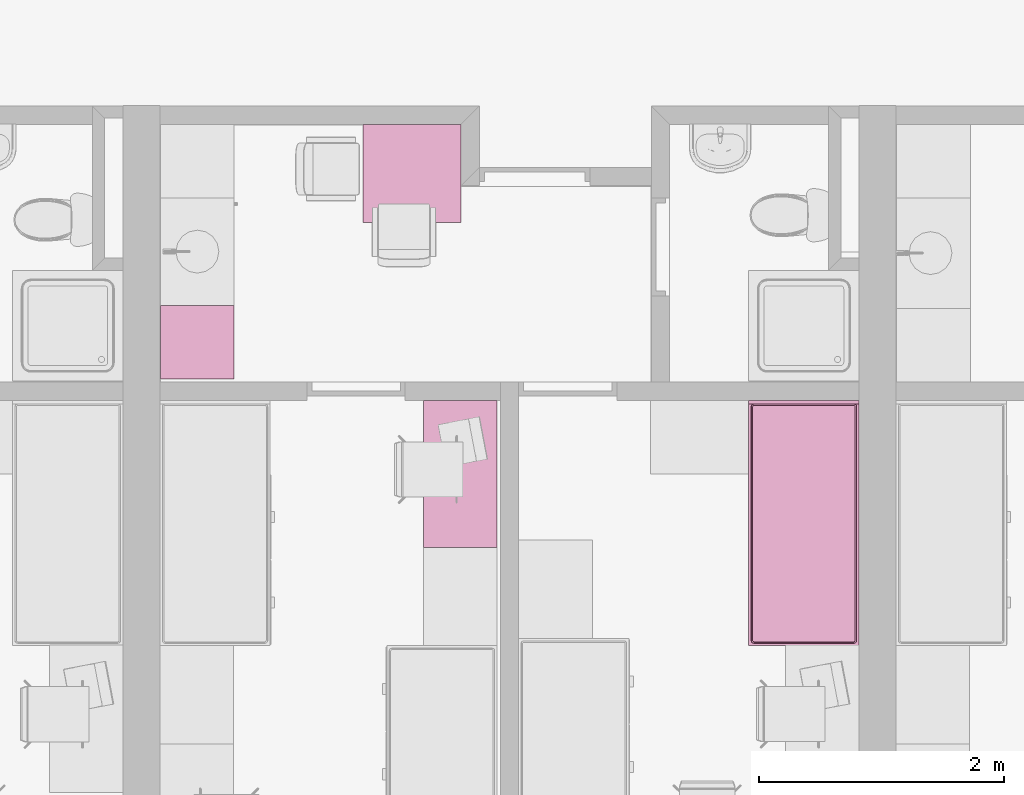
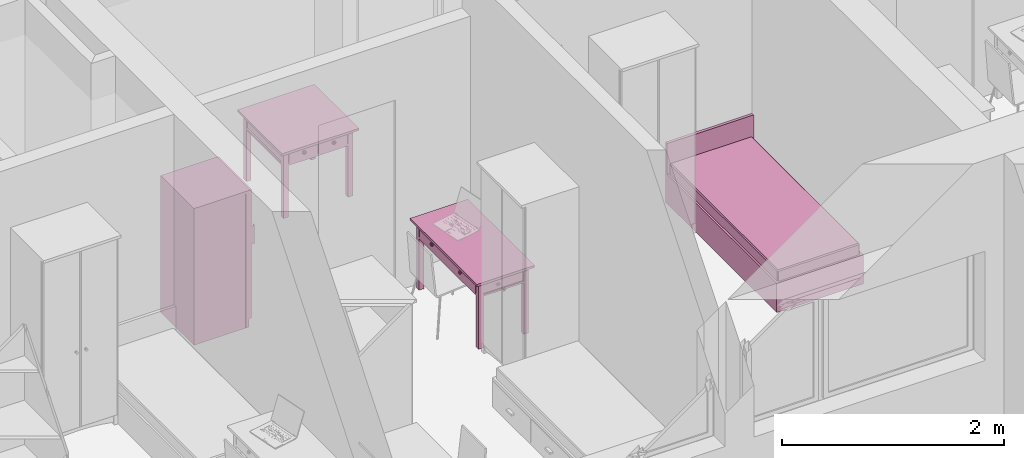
# One storey, part 107 of 172: 4 furnishings.
"""IFC2X3 building model written with IfcOpenShell, lengths in millimetres."""

from ifc_helpers import new_model, entity, si_unit, converted_unit, money_unit, direction, frame, origin_with_axes, place, context, subcontext, project, spatial, open_shell, faceted_brep, surface_model, source, transform, mapped, material, material_list, type_object, element, save


model = new_model("IFC2X3")

# Units and contexts
model_context = context("Model", 3, precision=1e-05, world=origin_with_axes(), true_north=direction((0.0, 1.0)))
body_context = subcontext(model_context, "Body", "Model", "MODEL_VIEW")
ifc_project = project(units=[si_unit("LENGTHUNIT", "METRE", prefix="MILLI"), si_unit("AREAUNIT", "SQUARE_METRE"), si_unit("VOLUMEUNIT", "CUBIC_METRE"), converted_unit("PLANEANGLEUNIT", "DEGREE", entity("IfcPlaneAngleMeasure", 0.0174532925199), si_unit("PLANEANGLEUNIT", "RADIAN"), dimensions=[0, 0, 0, 0, 0, 0, 0]), si_unit("SOLIDANGLEUNIT", "STERADIAN"), money_unit("USD"), converted_unit("TIMEUNIT", "Year", entity("IfcTimeMeasure", 31556926.0), si_unit("TIMEUNIT", "SECOND"), dimensions=[0, 0, 0, 0, 0, 0, 0]), si_unit("MASSUNIT", "GRAM"), si_unit("THERMODYNAMICTEMPERATUREUNIT", "DEGREE_CELSIUS"), si_unit("LUMINOUSINTENSITYUNIT", "LUMEN")], contexts=[model_context])

# Site, building, storey
site_placement = place(None, origin_with_axes())
site = spatial("IfcSite", under=ifc_project, at=site_placement, Name="Site", CompositionType="ELEMENT")
building_placement = place(site_placement, origin_with_axes())
building = spatial("IfcBuilding", under=site, at=building_placement, Name="Building", CompositionType="ELEMENT")
storey_placement = place(building_placement, frame((0.0, 0.0, 3200.0), z_axis=(0.0, 0.0, 1.0), x_axis=(1.0, 0.0, 0.0)))
storey = spatial("IfcBuildingStorey", under=building, at=storey_placement, Name="3KORRUS", CompositionType="ELEMENT", Elevation=3200.0)

# Furnishings
ifc_material = material(Name="Background")
ifc_material_list = material_list([ifc_material])
furnishing_element_type_1 = type_object("IfcFurnishingElementType", Name="Bed 19")
shared_shape_1 = source(origin_with_axes(), body_context, "Body", "Brep", [
    faceted_brep([(900.0, 1970.0, 0.0), (0.0, 1970.0, 0.0), (0.0, 2000.0, 0.0), (900.0, 2000.0, 0.0), (900.0, 1970.0, 660.0), (0.0, 1970.0, 660.0), (0.0, 2000.0, 660.0), (900.0, 2000.0, 660.0)], [[[0, 1, 2, 3]], [[1, 0, 4, 5]], [[2, 1, 5, 6]], [[3, 2, 6, 7]], [[0, 3, 7, 4]], [[5, 4, 7, 6]]]),
    faceted_brep([(900.0, 0.0, 0.0), (0.0, 0.0, 0.0), (0.0, 1970.0, 0.0), (900.0, 1970.0, 0.0), (900.0, 0.0, 320.0), (0.0, 0.0, 320.0), (0.0, 1970.0, 320.0), (900.0, 1970.0, 320.0)], [[[0, 1, 2, 3]], [[1, 0, 4, 5]], [[2, 1, 5, 6]], [[3, 2, 6, 7]], [[0, 3, 7, 4]], [[5, 4, 7, 6]]]),
    faceted_brep([(905.0, 10.0, 30.0), (900.0, 10.0, 30.0), (900.0, 695.0, 30.0), (905.0, 695.0, 30.0), (905.0, 10.0, 290.0), (900.0, 10.0, 290.0), (900.0, 695.0, 290.0), (905.0, 695.0, 290.0)], [[[0, 1, 2, 3]], [[1, 0, 4, 5]], [[2, 1, 5, 6]], [[3, 2, 6, 7]], [[0, 3, 7, 4]], [[5, 4, 7, 6]]]),
    faceted_brep([(935.0, 307.5, 150.0), (905.0, 307.5, 150.0), (905.0, 397.5, 150.0), (935.0, 397.5, 150.0), (935.0, 307.5, 170.0), (905.0, 307.5, 170.0), (905.0, 397.5, 170.0), (935.0, 397.5, 170.0)], [[[0, 1, 2, 3]], [[1, 0, 4, 5]], [[2, 1, 5, 6]], [[3, 2, 6, 7]], [[0, 3, 7, 4]], [[5, 4, 7, 6]]]),
    faceted_brep([(905.0, 705.0, 30.0), (900.0, 705.0, 30.0), (900.0, 1390.0, 30.0), (905.0, 1390.0, 30.0), (905.0, 705.0, 290.0), (900.0, 705.0, 290.0), (900.0, 1390.0, 290.0), (905.0, 1390.0, 290.0)], [[[0, 1, 2, 3]], [[1, 0, 4, 5]], [[2, 1, 5, 6]], [[3, 2, 6, 7]], [[0, 3, 7, 4]], [[5, 4, 7, 6]]]),
    faceted_brep([(935.0, 1002.5, 150.0), (905.0, 1002.5, 150.0), (905.0, 1092.5, 150.0), (935.0, 1092.5, 150.0), (935.0, 1002.5, 170.0), (905.0, 1002.5, 170.0), (905.0, 1092.5, 170.0), (935.0, 1092.5, 170.0)], [[[0, 1, 2, 3]], [[1, 0, 4, 5]], [[2, 1, 5, 6]], [[3, 2, 6, 7]], [[0, 3, 7, 4]], [[5, 4, 7, 6]]]),
    faceted_brep([(20.0, 40.0, 350.0), (20.0, 1950.0, 350.0), (21.522, 1957.654, 350.0), (25.858, 1964.142, 350.0), (32.346, 1968.478, 350.0), (40.0, 1970.0, 350.0), (860.0, 1970.0, 350.0), (867.654, 1968.478, 350.0), (874.142, 1964.142, 350.0), (878.478, 1957.654, 350.0), (880.0, 1950.0, 350.0), (880.0, 40.0, 350.0), (878.478, 32.346, 350.0), (874.142, 25.858, 350.0), (867.654, 21.522, 350.0), (860.0, 20.0, 350.0), (40.0, 20.0, 350.0), (32.346, 21.522, 350.0), (25.858, 25.858, 350.0), (21.522, 32.346, 350.0), (20.0, 40.0, 420.0), (20.0, 1950.0, 420.0), (21.522, 1957.654, 420.0), (25.858, 1964.142, 420.0), (32.346, 1968.478, 420.0), (40.0, 1970.0, 420.0), (860.0, 1970.0, 420.0), (867.654, 1968.478, 420.0), (874.142, 1964.142, 420.0), (878.478, 1957.654, 420.0), (880.0, 1950.0, 420.0), (880.0, 40.0, 420.0), (878.478, 32.346, 420.0), (874.142, 25.858, 420.0), (867.654, 21.522, 420.0), (860.0, 20.0, 420.0), (40.0, 20.0, 420.0), (32.346, 21.522, 420.0), (25.858, 25.858, 420.0), (21.522, 32.346, 420.0), (21.522, 40.15, 427.654), (21.522, 1949.85, 427.654), (22.956, 1957.06, 427.654), (26.955, 1963.045, 427.654), (32.94, 1967.044, 427.654), (40.15, 1968.478, 427.654), (859.85, 1968.478, 427.654), (867.06, 1967.044, 427.654), (873.045, 1963.045, 427.654), (877.044, 1957.06, 427.654), (878.478, 1949.85, 427.654), (878.478, 40.15, 427.654), (877.044, 32.94, 427.654), (873.045, 26.955, 427.654), (867.06, 22.956, 427.654), (859.85, 21.522, 427.654), (40.15, 21.522, 427.654), (32.94, 22.956, 427.654), (26.955, 26.955, 427.654), (22.956, 32.94, 427.654), (32.346, 41.216, 438.478), (32.346, 1948.784, 438.478), (33.152, 1952.836, 438.478), (34.759, 1955.241, 438.478), (37.164, 1956.848, 438.478), (41.216, 1957.654, 438.478), (858.784, 1957.654, 438.478), (862.836, 1956.848, 438.478), (865.241, 1955.241, 438.478), (866.848, 1952.836, 438.478), (867.654, 1948.784, 438.478), (867.654, 41.216, 438.478), (866.848, 37.164, 438.478), (865.241, 34.759, 438.478), (862.836, 33.152, 438.478), (858.784, 32.346, 438.478), (41.216, 32.346, 438.478), (37.164, 33.152, 438.478), (34.759, 34.759, 438.478), (33.152, 37.164, 438.478), (40.0, 41.97, 440.0), (40.0, 1948.03, 440.0), (40.327, 1949.673, 440.0), (40.0, 1950.0, 439.924), (41.97, 1950.0, 440.0), (858.03, 1950.0, 440.0), (859.673, 1949.673, 440.0), (860.0, 1950.0, 439.924), (860.0, 1948.03, 440.0), (860.0, 41.97, 440.0), (859.673, 40.327, 440.0), (860.0, 40.0, 439.924), (858.03, 40.0, 440.0), (41.97, 40.0, 440.0), (40.327, 40.327, 440.0), (40.0, 40.0, 439.924)], [[[0, 1, 2, 3, 4, 5, 6, 7, 8, 9, 10, 11, 12, 13, 14, 15, 16, 17, 18, 19]], [[1, 0, 20, 21]], [[2, 1, 21, 22]], [[3, 2, 22, 23]], [[4, 3, 23, 24]], [[5, 4, 24, 25]], [[6, 5, 25, 26]], [[7, 6, 26, 27]], [[8, 7, 27, 28]], [[9, 8, 28, 29]], [[10, 9, 29, 30]], [[11, 10, 30, 31]], [[12, 11, 31, 32]], [[13, 12, 32, 33]], [[14, 13, 33, 34]], [[15, 14, 34, 35]], [[16, 15, 35, 36]], [[17, 16, 36, 37]], [[18, 17, 37, 38]], [[19, 18, 38, 39]], [[0, 19, 39, 20]], [[21, 20, 40, 41]], [[22, 21, 41, 42]], [[23, 22, 42, 43]], [[24, 23, 43, 44]], [[25, 24, 44, 45]], [[26, 25, 45, 46]], [[27, 26, 46, 47]], [[28, 27, 47, 48]], [[29, 28, 48, 49]], [[30, 29, 49, 50]], [[31, 30, 50, 51]], [[32, 31, 51, 52]], [[33, 32, 52, 53]], [[34, 33, 53, 54]], [[35, 34, 54, 55]], [[36, 35, 55, 56]], [[37, 36, 56, 57]], [[38, 37, 57, 58]], [[39, 38, 58, 59]], [[20, 39, 59, 40]], [[41, 40, 60, 61]], [[42, 41, 61, 62]], [[43, 42, 62, 63]], [[44, 43, 63, 64]], [[45, 44, 64, 65]], [[46, 45, 65, 66]], [[47, 46, 66, 67]], [[48, 47, 67, 68]], [[49, 48, 68, 69]], [[50, 49, 69, 70]], [[51, 50, 70, 71]], [[52, 51, 71, 72]], [[53, 52, 72, 73]], [[54, 53, 73, 74]], [[55, 54, 74, 75]], [[56, 55, 75, 76]], [[57, 56, 76, 77]], [[58, 57, 77, 78]], [[59, 58, 78, 79]], [[40, 59, 79, 60]], [[61, 60, 80, 81]], [[62, 61, 81, 82, 83]], [[63, 62, 83]], [[64, 63, 83]], [[65, 64, 83, 82, 84]], [[66, 65, 84, 85]], [[67, 66, 85, 86, 87]], [[68, 67, 87]], [[69, 68, 87]], [[70, 69, 87, 86, 88]], [[71, 70, 88, 89]], [[72, 71, 89, 90, 91]], [[73, 72, 91]], [[74, 73, 91]], [[75, 74, 91, 90, 92]], [[76, 75, 92, 93]], [[77, 76, 93, 94, 95]], [[78, 77, 95]], [[79, 78, 95]], [[60, 79, 95, 94, 80]], [[81, 80, 94, 93, 92, 90, 89, 88, 86, 85, 84, 82]]]),
    faceted_brep([(20.0, 40.0, 350.0), (21.522, 32.346, 350.0), (25.858, 25.858, 350.0), (32.346, 21.522, 350.0), (40.0, 20.0, 350.0), (860.0, 20.0, 350.0), (867.654, 21.522, 350.0), (874.142, 25.858, 350.0), (878.478, 32.346, 350.0), (880.0, 40.0, 350.0), (880.0, 1950.0, 350.0), (878.478, 1957.654, 350.0), (874.142, 1964.142, 350.0), (867.654, 1968.478, 350.0), (860.0, 1970.0, 350.0), (40.0, 1970.0, 350.0), (32.346, 1968.478, 350.0), (25.858, 1964.142, 350.0), (21.522, 1957.654, 350.0), (20.0, 1950.0, 350.0), (20.0, 40.0, 320.0), (21.522, 32.346, 320.0), (25.858, 25.858, 320.0), (32.346, 21.522, 320.0), (40.0, 20.0, 320.0), (860.0, 20.0, 320.0), (867.654, 21.522, 320.0), (874.142, 25.858, 320.0), (878.478, 32.346, 320.0), (880.0, 40.0, 320.0), (880.0, 1950.0, 320.0), (878.478, 1957.654, 320.0), (874.142, 1964.142, 320.0), (867.654, 1968.478, 320.0), (860.0, 1970.0, 320.0), (40.0, 1970.0, 320.0), (32.346, 1968.478, 320.0), (25.858, 1964.142, 320.0), (21.522, 1957.654, 320.0), (20.0, 1950.0, 320.0)], [[[0, 1, 2, 3, 4, 5, 6, 7, 8, 9, 10, 11, 12, 13, 14, 15, 16, 17, 18, 19]], [[0, 20, 21, 1]], [[1, 21, 22, 2]], [[2, 22, 23, 3]], [[3, 23, 24, 4]], [[4, 24, 25, 5]], [[5, 25, 26, 6]], [[6, 26, 27, 7]], [[7, 27, 28, 8]], [[8, 28, 29, 9]], [[9, 29, 30, 10]], [[10, 30, 31, 11]], [[11, 31, 32, 12]], [[12, 32, 33, 13]], [[13, 33, 34, 14]], [[14, 34, 35, 15]], [[15, 35, 36, 16]], [[16, 36, 37, 17]], [[17, 37, 38, 18]], [[18, 38, 39, 19]], [[19, 39, 20, 0]], [[20, 39, 38, 37, 36, 35, 34, 33, 32, 31, 30, 29, 28, 27, 26, 25, 24, 23, 22, 21]]]),
])
furnishing_1_placement = place(storey_placement, frame((-25190.2967033, -17439.2398994, 0.0), z_axis=(0.0, 0.0, 1.0), x_axis=(1.0, 0.0, 0.0)))
element("IfcFurnishingElement", 1, at=furnishing_1_placement, inside=storey, type_object=furnishing_element_type_1, material=ifc_material_list, Name="FU - 013", context=body_context, shape_type="MappedRepresentation", body=[
    mapped(shared_shape_1, transform((0.0, 0.0, 0.0))),
])
furnishing_element_type_2 = type_object("IfcFurnishingElementType", Name="Rectangular Table 01 19")
shared_shape_2 = source(origin_with_axes(), body_context, "Body", "Brep", [
    faceted_brep([(90.0, 40.0, 0.0), (40.0, 40.0, 0.0), (40.0, 90.0, 0.0), (90.0, 90.0, 0.0), (90.0, 40.0, 725.0), (40.0, 40.0, 725.0), (40.0, 90.0, 725.0), (90.0, 90.0, 725.0)], [[[0, 1, 2, 3]], [[1, 0, 4, 5]], [[2, 1, 5, 6]], [[3, 2, 6, 7]], [[0, 3, 7, 4]], [[5, 4, 7, 6]]]),
    faceted_brep([(1160.0, 40.0, 0.0), (1110.0, 40.0, 0.0), (1110.0, 90.0, 0.0), (1160.0, 90.0, 0.0), (1160.0, 40.0, 725.0), (1110.0, 40.0, 725.0), (1110.0, 90.0, 725.0), (1160.0, 90.0, 725.0)], [[[0, 1, 2, 3]], [[1, 0, 4, 5]], [[2, 1, 5, 6]], [[3, 2, 6, 7]], [[0, 3, 7, 4]], [[5, 4, 7, 6]]]),
    faceted_brep([(90.0, 510.0, 0.0), (40.0, 510.0, 0.0), (40.0, 560.0, 0.0), (90.0, 560.0, 0.0), (90.0, 510.0, 725.0), (40.0, 510.0, 725.0), (40.0, 560.0, 725.0), (90.0, 560.0, 725.0)], [[[0, 1, 2, 3]], [[1, 0, 4, 5]], [[2, 1, 5, 6]], [[3, 2, 6, 7]], [[0, 3, 7, 4]], [[5, 4, 7, 6]]]),
    faceted_brep([(1160.0, 510.0, 0.0), (1110.0, 510.0, 0.0), (1110.0, 560.0, 0.0), (1160.0, 560.0, 0.0), (1160.0, 510.0, 725.0), (1110.0, 510.0, 725.0), (1110.0, 560.0, 725.0), (1160.0, 560.0, 725.0)], [[[0, 1, 2, 3]], [[1, 0, 4, 5]], [[2, 1, 5, 6]], [[3, 2, 6, 7]], [[0, 3, 7, 4]], [[5, 4, 7, 6]]]),
    faceted_brep([(1160.0, 40.0, 565.0), (40.0, 40.0, 565.0), (40.0, 560.0, 565.0), (1160.0, 560.0, 565.0), (1160.0, 40.0, 585.0), (40.0, 40.0, 585.0), (40.0, 560.0, 585.0), (1160.0, 560.0, 585.0)], [[[0, 1, 2, 3]], [[1, 0, 4, 5]], [[2, 1, 5, 6]], [[3, 2, 6, 7]], [[0, 3, 7, 4]], [[5, 4, 7, 6]]]),
    faceted_brep([(1110.0, 52.5, 585.0), (90.0, 52.5, 585.0), (90.0, 77.5, 585.0), (1110.0, 77.5, 585.0), (1110.0, 52.5, 745.0), (90.0, 52.5, 745.0), (90.0, 77.5, 745.0), (1110.0, 77.5, 745.0)], [[[0, 1, 2, 3]], [[1, 0, 4, 5]], [[2, 1, 5, 6]], [[3, 2, 6, 7]], [[0, 3, 7, 4]], [[5, 4, 7, 6]]]),
    faceted_brep([(77.5, 90.0, 585.0), (52.5, 90.0, 585.0), (52.5, 510.0, 585.0), (77.5, 510.0, 585.0), (77.5, 90.0, 745.0), (52.5, 90.0, 745.0), (52.5, 510.0, 745.0), (77.5, 510.0, 745.0)], [[[0, 1, 2, 3]], [[1, 0, 4, 5]], [[2, 1, 5, 6]], [[3, 2, 6, 7]], [[0, 3, 7, 4]], [[5, 4, 7, 6]]]),
    faceted_brep([(90.0, 547.5, 585.0), (1110.0, 547.5, 585.0), (1110.0, 522.5, 585.0), (90.0, 522.5, 585.0), (90.0, 547.5, 745.0), (1110.0, 547.5, 745.0), (1110.0, 522.5, 745.0), (90.0, 522.5, 745.0)], [[[0, 1, 2, 3]], [[1, 0, 4, 5]], [[2, 1, 5, 6]], [[3, 2, 6, 7]], [[0, 3, 7, 4]], [[5, 4, 7, 6]]]),
    faceted_brep([(1122.5, 510.0, 585.0), (1147.5, 510.0, 585.0), (1147.5, 90.0, 585.0), (1122.5, 90.0, 585.0), (1122.5, 510.0, 745.0), (1147.5, 510.0, 745.0), (1147.5, 90.0, 745.0), (1122.5, 90.0, 745.0)], [[[0, 1, 2, 3]], [[1, 0, 4, 5]], [[2, 1, 5, 6]], [[3, 2, 6, 7]], [[0, 3, 7, 4]], [[5, 4, 7, 6]]]),
    faceted_brep([(597.5, 40.0, 585.0), (95.0, 40.0, 585.0), (95.0, 60.0, 585.0), (597.5, 60.0, 585.0), (597.5, 40.0, 745.0), (95.0, 40.0, 745.0), (95.0, 60.0, 745.0), (597.5, 60.0, 745.0)], [[[0, 1, 2, 3]], [[1, 0, 4, 5]], [[2, 1, 5, 6]], [[3, 2, 6, 7]], [[0, 3, 7, 4]], [[5, 4, 7, 6]]]),
    faceted_brep([(1105.0, 40.0, 585.0), (602.5, 40.0, 585.0), (602.5, 60.0, 585.0), (1105.0, 60.0, 585.0), (1105.0, 40.0, 745.0), (602.5, 40.0, 745.0), (602.5, 60.0, 745.0), (1105.0, 60.0, 745.0)], [[[0, 1, 2, 3]], [[1, 0, 4, 5]], [[2, 1, 5, 6]], [[3, 2, 6, 7]], [[0, 3, 7, 4]], [[5, 4, 7, 6]]]),
    faceted_brep([(354.91, 40.0, 660.0), (351.25, 40.0, 656.34), (346.25, 40.0, 655.0), (341.25, 40.0, 656.34), (337.59, 40.0, 660.0), (336.25, 40.0, 665.0), (337.59, 40.0, 670.0), (341.25, 40.0, 673.66), (346.25, 40.0, 675.0), (351.25, 40.0, 673.66), (354.91, 40.0, 670.0), (356.25, 40.0, 665.0), (354.91, 25.0, 660.0), (351.25, 25.0, 656.34), (346.25, 25.0, 655.0), (341.25, 25.0, 656.34), (337.59, 25.0, 660.0), (336.25, 25.0, 665.0), (337.59, 25.0, 670.0), (341.25, 25.0, 673.66), (346.25, 25.0, 675.0), (351.25, 25.0, 673.66), (354.91, 25.0, 670.0), (356.25, 25.0, 665.0)], [[[0, 1, 2, 3, 4, 5, 6, 7, 8, 9, 10, 11]], [[1, 0, 12, 13]], [[2, 1, 13, 14]], [[3, 2, 14, 15]], [[4, 3, 15, 16]], [[5, 4, 16, 17]], [[6, 5, 17, 18]], [[7, 6, 18, 19]], [[8, 7, 19, 20]], [[9, 8, 20, 21]], [[10, 9, 21, 22]], [[11, 10, 22, 23]], [[0, 11, 23, 12]], [[12, 23, 22, 21, 20, 19, 18, 17, 16, 15, 14, 13]]]),
    faceted_brep([(356.25, 12.01, 665.0), (346.25, 10.0, 665.0), (354.91, 12.01, 660.0), (354.91, 12.01, 670.0), (351.25, 12.01, 656.34), (363.571, 17.5, 665.0), (361.25, 17.5, 656.34), (351.25, 12.01, 673.66), (361.25, 17.5, 673.66), (346.25, 12.01, 655.0), (354.91, 17.5, 650.0), (366.25, 25.0, 665.0), (363.571, 25.0, 655.0), (346.25, 12.01, 675.0), (354.91, 17.5, 680.0), (363.571, 25.0, 675.0), (341.25, 12.01, 656.34), (346.25, 17.5, 647.679), (356.25, 25.0, 647.679), (346.25, 25.0, 645.0), (336.25, 25.0, 647.679), (328.929, 25.0, 655.0), (326.25, 25.0, 665.0), (328.929, 25.0, 675.0), (336.25, 25.0, 682.321), (346.25, 25.0, 685.0), (356.25, 25.0, 682.321), (341.25, 12.01, 673.66), (346.25, 17.5, 682.321), (337.59, 12.01, 660.0), (337.59, 17.5, 650.0), (331.25, 17.5, 656.34), (328.929, 17.5, 665.0), (331.25, 17.5, 673.66), (337.59, 17.5, 680.0), (337.59, 12.01, 670.0), (336.25, 12.01, 665.0)], [[[0, 1, 2]], [[3, 1, 0]], [[2, 1, 4]], [[5, 0, 2, 6]], [[7, 1, 3]], [[8, 3, 0, 5]], [[4, 1, 9]], [[6, 2, 4, 10]], [[11, 5, 6, 12]], [[13, 1, 7]], [[14, 7, 3, 8]], [[15, 8, 5, 11]], [[9, 1, 16]], [[10, 4, 9, 17]], [[12, 6, 10, 18]], [[12, 18, 19, 20, 21, 22, 23, 24, 25, 26, 15, 11]], [[27, 1, 13]], [[28, 13, 7, 14]], [[26, 14, 8, 15]], [[16, 1, 29]], [[17, 9, 16, 30]], [[18, 10, 17, 19]], [[19, 17, 30, 20]], [[20, 30, 31, 21]], [[21, 31, 32, 22]], [[22, 32, 33, 23]], [[23, 33, 34, 24]], [[24, 34, 28, 25]], [[25, 28, 14, 26]], [[35, 1, 27]], [[34, 27, 13, 28]], [[29, 1, 36]], [[30, 16, 29, 31]], [[31, 29, 36, 32]], [[32, 36, 35, 33]], [[33, 35, 27, 34]], [[36, 1, 35]]]),
    faceted_brep([(862.41, 40.0, 660.0), (858.75, 40.0, 656.34), (853.75, 40.0, 655.0), (848.75, 40.0, 656.34), (845.09, 40.0, 660.0), (843.75, 40.0, 665.0), (845.09, 40.0, 670.0), (848.75, 40.0, 673.66), (853.75, 40.0, 675.0), (858.75, 40.0, 673.66), (862.41, 40.0, 670.0), (863.75, 40.0, 665.0), (862.41, 25.0, 660.0), (858.75, 25.0, 656.34), (853.75, 25.0, 655.0), (848.75, 25.0, 656.34), (845.09, 25.0, 660.0), (843.75, 25.0, 665.0), (845.09, 25.0, 670.0), (848.75, 25.0, 673.66), (853.75, 25.0, 675.0), (858.75, 25.0, 673.66), (862.41, 25.0, 670.0), (863.75, 25.0, 665.0)], [[[0, 1, 2, 3, 4, 5, 6, 7, 8, 9, 10, 11]], [[1, 0, 12, 13]], [[2, 1, 13, 14]], [[3, 2, 14, 15]], [[4, 3, 15, 16]], [[5, 4, 16, 17]], [[6, 5, 17, 18]], [[7, 6, 18, 19]], [[8, 7, 19, 20]], [[9, 8, 20, 21]], [[10, 9, 21, 22]], [[11, 10, 22, 23]], [[0, 11, 23, 12]], [[12, 23, 22, 21, 20, 19, 18, 17, 16, 15, 14, 13]]]),
    faceted_brep([(863.75, 12.01, 665.0), (853.75, 10.0, 665.0), (862.41, 12.01, 660.0), (862.41, 12.01, 670.0), (858.75, 12.01, 656.34), (871.071, 17.5, 665.0), (868.75, 17.5, 656.34), (858.75, 12.01, 673.66), (868.75, 17.5, 673.66), (853.75, 12.01, 655.0), (862.41, 17.5, 650.0), (873.75, 25.0, 665.0), (871.071, 25.0, 655.0), (853.75, 12.01, 675.0), (862.41, 17.5, 680.0), (871.071, 25.0, 675.0), (848.75, 12.01, 656.34), (853.75, 17.5, 647.679), (863.75, 25.0, 647.679), (853.75, 25.0, 645.0), (843.75, 25.0, 647.679), (836.429, 25.0, 655.0), (833.75, 25.0, 665.0), (836.429, 25.0, 675.0), (843.75, 25.0, 682.321), (853.75, 25.0, 685.0), (863.75, 25.0, 682.321), (848.75, 12.01, 673.66), (853.75, 17.5, 682.321), (845.09, 12.01, 660.0), (845.09, 17.5, 650.0), (838.75, 17.5, 656.34), (836.429, 17.5, 665.0), (838.75, 17.5, 673.66), (845.09, 17.5, 680.0), (845.09, 12.01, 670.0), (843.75, 12.01, 665.0)], [[[0, 1, 2]], [[3, 1, 0]], [[2, 1, 4]], [[5, 0, 2, 6]], [[7, 1, 3]], [[8, 3, 0, 5]], [[4, 1, 9]], [[6, 2, 4, 10]], [[11, 5, 6, 12]], [[13, 1, 7]], [[14, 7, 3, 8]], [[15, 8, 5, 11]], [[9, 1, 16]], [[10, 4, 9, 17]], [[12, 6, 10, 18]], [[12, 18, 19, 20, 21, 22, 23, 24, 25, 26, 15, 11]], [[27, 1, 13]], [[28, 13, 7, 14]], [[26, 14, 8, 15]], [[16, 1, 29]], [[17, 9, 16, 30]], [[18, 10, 17, 19]], [[19, 17, 30, 20]], [[20, 30, 31, 21]], [[21, 31, 32, 22]], [[22, 32, 33, 23]], [[23, 33, 34, 24]], [[24, 34, 28, 25]], [[25, 28, 14, 26]], [[35, 1, 27]], [[34, 27, 13, 28]], [[29, 1, 36]], [[30, 16, 29, 31]], [[31, 29, 36, 32]], [[32, 36, 35, 33]], [[33, 35, 27, 34]], [[36, 1, 35]]]),
    faceted_brep([(1200.0, 0.0, 725.0), (0.0, 0.0, 725.0), (0.0, 600.0, 725.0), (1200.0, 600.0, 725.0), (1200.0, 0.0, 750.0), (0.0, 0.0, 750.0), (0.0, 600.0, 750.0), (1200.0, 600.0, 750.0)], [[[0, 1, 2, 3]], [[1, 0, 4, 5]], [[2, 1, 5, 6]], [[3, 2, 6, 7]], [[0, 3, 7, 4]], [[5, 4, 7, 6]]]),
])
furnishing_2_placement = place(storey_placement, frame((-27840.2967033, -15439.2398994, 0.0), z_axis=(0.0, 0.0, 1.0), x_axis=(0.0, -1.0, 0.0)))
element("IfcFurnishingElement", 2, at=furnishing_2_placement, inside=storey, type_object=furnishing_element_type_2, material=ifc_material_list, Name="FU - 011", context=body_context, shape_type="MappedRepresentation", body=[
    mapped(shared_shape_2, transform((0.0, 0.0, 0.0))),
])
shared_shape_3 = source(origin_with_axes(), body_context, "Body", "Brep", [
    faceted_brep([(90.0, 40.0, 0.0), (40.0, 40.0, 0.0), (40.0, 90.0, 0.0), (90.0, 90.0, 0.0), (90.0, 40.0, 725.0), (40.0, 40.0, 725.0), (40.0, 90.0, 725.0), (90.0, 90.0, 725.0)], [[[0, 1, 2, 3]], [[1, 0, 4, 5]], [[2, 1, 5, 6]], [[3, 2, 6, 7]], [[0, 3, 7, 4]], [[5, 4, 7, 6]]]),
    faceted_brep([(760.0, 40.0, 0.0), (710.0, 40.0, 0.0), (710.0, 90.0, 0.0), (760.0, 90.0, 0.0), (760.0, 40.0, 725.0), (710.0, 40.0, 725.0), (710.0, 90.0, 725.0), (760.0, 90.0, 725.0)], [[[0, 1, 2, 3]], [[1, 0, 4, 5]], [[2, 1, 5, 6]], [[3, 2, 6, 7]], [[0, 3, 7, 4]], [[5, 4, 7, 6]]]),
    faceted_brep([(90.0, 710.0, 0.0), (40.0, 710.0, 0.0), (40.0, 760.0, 0.0), (90.0, 760.0, 0.0), (90.0, 710.0, 725.0), (40.0, 710.0, 725.0), (40.0, 760.0, 725.0), (90.0, 760.0, 725.0)], [[[0, 1, 2, 3]], [[1, 0, 4, 5]], [[2, 1, 5, 6]], [[3, 2, 6, 7]], [[0, 3, 7, 4]], [[5, 4, 7, 6]]]),
    faceted_brep([(760.0, 710.0, 0.0), (710.0, 710.0, 0.0), (710.0, 760.0, 0.0), (760.0, 760.0, 0.0), (760.0, 710.0, 725.0), (710.0, 710.0, 725.0), (710.0, 760.0, 725.0), (760.0, 760.0, 725.0)], [[[0, 1, 2, 3]], [[1, 0, 4, 5]], [[2, 1, 5, 6]], [[3, 2, 6, 7]], [[0, 3, 7, 4]], [[5, 4, 7, 6]]]),
    faceted_brep([(760.0, 40.0, 565.0), (40.0, 40.0, 565.0), (40.0, 760.0, 565.0), (760.0, 760.0, 565.0), (760.0, 40.0, 585.0), (40.0, 40.0, 585.0), (40.0, 760.0, 585.0), (760.0, 760.0, 585.0)], [[[0, 1, 2, 3]], [[1, 0, 4, 5]], [[2, 1, 5, 6]], [[3, 2, 6, 7]], [[0, 3, 7, 4]], [[5, 4, 7, 6]]]),
    faceted_brep([(710.0, 52.5, 585.0), (90.0, 52.5, 585.0), (90.0, 77.5, 585.0), (710.0, 77.5, 585.0), (710.0, 52.5, 745.0), (90.0, 52.5, 745.0), (90.0, 77.5, 745.0), (710.0, 77.5, 745.0)], [[[0, 1, 2, 3]], [[1, 0, 4, 5]], [[2, 1, 5, 6]], [[3, 2, 6, 7]], [[0, 3, 7, 4]], [[5, 4, 7, 6]]]),
    faceted_brep([(77.5, 90.0, 585.0), (52.5, 90.0, 585.0), (52.5, 710.0, 585.0), (77.5, 710.0, 585.0), (77.5, 90.0, 745.0), (52.5, 90.0, 745.0), (52.5, 710.0, 745.0), (77.5, 710.0, 745.0)], [[[0, 1, 2, 3]], [[1, 0, 4, 5]], [[2, 1, 5, 6]], [[3, 2, 6, 7]], [[0, 3, 7, 4]], [[5, 4, 7, 6]]]),
    faceted_brep([(90.0, 747.5, 585.0), (710.0, 747.5, 585.0), (710.0, 722.5, 585.0), (90.0, 722.5, 585.0), (90.0, 747.5, 745.0), (710.0, 747.5, 745.0), (710.0, 722.5, 745.0), (90.0, 722.5, 745.0)], [[[0, 1, 2, 3]], [[1, 0, 4, 5]], [[2, 1, 5, 6]], [[3, 2, 6, 7]], [[0, 3, 7, 4]], [[5, 4, 7, 6]]]),
    faceted_brep([(722.5, 710.0, 585.0), (747.5, 710.0, 585.0), (747.5, 90.0, 585.0), (722.5, 90.0, 585.0), (722.5, 710.0, 745.0), (747.5, 710.0, 745.0), (747.5, 90.0, 745.0), (722.5, 90.0, 745.0)], [[[0, 1, 2, 3]], [[1, 0, 4, 5]], [[2, 1, 5, 6]], [[3, 2, 6, 7]], [[0, 3, 7, 4]], [[5, 4, 7, 6]]]),
    faceted_brep([(397.5, 40.0, 585.0), (95.0, 40.0, 585.0), (95.0, 60.0, 585.0), (397.5, 60.0, 585.0), (397.5, 40.0, 745.0), (95.0, 40.0, 745.0), (95.0, 60.0, 745.0), (397.5, 60.0, 745.0)], [[[0, 1, 2, 3]], [[1, 0, 4, 5]], [[2, 1, 5, 6]], [[3, 2, 6, 7]], [[0, 3, 7, 4]], [[5, 4, 7, 6]]]),
    faceted_brep([(705.0, 40.0, 585.0), (402.5, 40.0, 585.0), (402.5, 60.0, 585.0), (705.0, 60.0, 585.0), (705.0, 40.0, 745.0), (402.5, 40.0, 745.0), (402.5, 60.0, 745.0), (705.0, 60.0, 745.0)], [[[0, 1, 2, 3]], [[1, 0, 4, 5]], [[2, 1, 5, 6]], [[3, 2, 6, 7]], [[0, 3, 7, 4]], [[5, 4, 7, 6]]]),
    faceted_brep([(254.91, 40.0, 660.0), (251.25, 40.0, 656.34), (246.25, 40.0, 655.0), (241.25, 40.0, 656.34), (237.59, 40.0, 660.0), (236.25, 40.0, 665.0), (237.59, 40.0, 670.0), (241.25, 40.0, 673.66), (246.25, 40.0, 675.0), (251.25, 40.0, 673.66), (254.91, 40.0, 670.0), (256.25, 40.0, 665.0), (254.91, 25.0, 660.0), (251.25, 25.0, 656.34), (246.25, 25.0, 655.0), (241.25, 25.0, 656.34), (237.59, 25.0, 660.0), (236.25, 25.0, 665.0), (237.59, 25.0, 670.0), (241.25, 25.0, 673.66), (246.25, 25.0, 675.0), (251.25, 25.0, 673.66), (254.91, 25.0, 670.0), (256.25, 25.0, 665.0)], [[[0, 1, 2, 3, 4, 5, 6, 7, 8, 9, 10, 11]], [[1, 0, 12, 13]], [[2, 1, 13, 14]], [[3, 2, 14, 15]], [[4, 3, 15, 16]], [[5, 4, 16, 17]], [[6, 5, 17, 18]], [[7, 6, 18, 19]], [[8, 7, 19, 20]], [[9, 8, 20, 21]], [[10, 9, 21, 22]], [[11, 10, 22, 23]], [[0, 11, 23, 12]], [[12, 23, 22, 21, 20, 19, 18, 17, 16, 15, 14, 13]]]),
    faceted_brep([(256.25, 12.01, 665.0), (246.25, 10.0, 665.0), (254.91, 12.01, 660.0), (254.91, 12.01, 670.0), (251.25, 12.01, 656.34), (263.571, 17.5, 665.0), (261.25, 17.5, 656.34), (251.25, 12.01, 673.66), (261.25, 17.5, 673.66), (246.25, 12.01, 655.0), (254.91, 17.5, 650.0), (266.25, 25.0, 665.0), (263.571, 25.0, 655.0), (246.25, 12.01, 675.0), (254.91, 17.5, 680.0), (263.571, 25.0, 675.0), (241.25, 12.01, 656.34), (246.25, 17.5, 647.679), (256.25, 25.0, 647.679), (246.25, 25.0, 645.0), (236.25, 25.0, 647.679), (228.929, 25.0, 655.0), (226.25, 25.0, 665.0), (228.929, 25.0, 675.0), (236.25, 25.0, 682.321), (246.25, 25.0, 685.0), (256.25, 25.0, 682.321), (241.25, 12.01, 673.66), (246.25, 17.5, 682.321), (237.59, 12.01, 660.0), (237.59, 17.5, 650.0), (231.25, 17.5, 656.34), (228.929, 17.5, 665.0), (231.25, 17.5, 673.66), (237.59, 17.5, 680.0), (237.59, 12.01, 670.0), (236.25, 12.01, 665.0)], [[[0, 1, 2]], [[3, 1, 0]], [[2, 1, 4]], [[5, 0, 2, 6]], [[7, 1, 3]], [[8, 3, 0, 5]], [[4, 1, 9]], [[6, 2, 4, 10]], [[11, 5, 6, 12]], [[13, 1, 7]], [[14, 7, 3, 8]], [[15, 8, 5, 11]], [[9, 1, 16]], [[10, 4, 9, 17]], [[12, 6, 10, 18]], [[12, 18, 19, 20, 21, 22, 23, 24, 25, 26, 15, 11]], [[27, 1, 13]], [[28, 13, 7, 14]], [[26, 14, 8, 15]], [[16, 1, 29]], [[17, 9, 16, 30]], [[18, 10, 17, 19]], [[19, 17, 30, 20]], [[20, 30, 31, 21]], [[21, 31, 32, 22]], [[22, 32, 33, 23]], [[23, 33, 34, 24]], [[24, 34, 28, 25]], [[25, 28, 14, 26]], [[35, 1, 27]], [[34, 27, 13, 28]], [[29, 1, 36]], [[30, 16, 29, 31]], [[31, 29, 36, 32]], [[32, 36, 35, 33]], [[33, 35, 27, 34]], [[36, 1, 35]]]),
    faceted_brep([(562.41, 40.0, 660.0), (558.75, 40.0, 656.34), (553.75, 40.0, 655.0), (548.75, 40.0, 656.34), (545.09, 40.0, 660.0), (543.75, 40.0, 665.0), (545.09, 40.0, 670.0), (548.75, 40.0, 673.66), (553.75, 40.0, 675.0), (558.75, 40.0, 673.66), (562.41, 40.0, 670.0), (563.75, 40.0, 665.0), (562.41, 25.0, 660.0), (558.75, 25.0, 656.34), (553.75, 25.0, 655.0), (548.75, 25.0, 656.34), (545.09, 25.0, 660.0), (543.75, 25.0, 665.0), (545.09, 25.0, 670.0), (548.75, 25.0, 673.66), (553.75, 25.0, 675.0), (558.75, 25.0, 673.66), (562.41, 25.0, 670.0), (563.75, 25.0, 665.0)], [[[0, 1, 2, 3, 4, 5, 6, 7, 8, 9, 10, 11]], [[1, 0, 12, 13]], [[2, 1, 13, 14]], [[3, 2, 14, 15]], [[4, 3, 15, 16]], [[5, 4, 16, 17]], [[6, 5, 17, 18]], [[7, 6, 18, 19]], [[8, 7, 19, 20]], [[9, 8, 20, 21]], [[10, 9, 21, 22]], [[11, 10, 22, 23]], [[0, 11, 23, 12]], [[12, 23, 22, 21, 20, 19, 18, 17, 16, 15, 14, 13]]]),
    faceted_brep([(563.75, 12.01, 665.0), (553.75, 10.0, 665.0), (562.41, 12.01, 660.0), (562.41, 12.01, 670.0), (558.75, 12.01, 656.34), (571.071, 17.5, 665.0), (568.75, 17.5, 656.34), (558.75, 12.01, 673.66), (568.75, 17.5, 673.66), (553.75, 12.01, 655.0), (562.41, 17.5, 650.0), (573.75, 25.0, 665.0), (571.071, 25.0, 655.0), (553.75, 12.01, 675.0), (562.41, 17.5, 680.0), (571.071, 25.0, 675.0), (548.75, 12.01, 656.34), (553.75, 17.5, 647.679), (563.75, 25.0, 647.679), (553.75, 25.0, 645.0), (543.75, 25.0, 647.679), (536.429, 25.0, 655.0), (533.75, 25.0, 665.0), (536.429, 25.0, 675.0), (543.75, 25.0, 682.321), (553.75, 25.0, 685.0), (563.75, 25.0, 682.321), (548.75, 12.01, 673.66), (553.75, 17.5, 682.321), (545.09, 12.01, 660.0), (545.09, 17.5, 650.0), (538.75, 17.5, 656.34), (536.429, 17.5, 665.0), (538.75, 17.5, 673.66), (545.09, 17.5, 680.0), (545.09, 12.01, 670.0), (543.75, 12.01, 665.0)], [[[0, 1, 2]], [[3, 1, 0]], [[2, 1, 4]], [[5, 0, 2, 6]], [[7, 1, 3]], [[8, 3, 0, 5]], [[4, 1, 9]], [[6, 2, 4, 10]], [[11, 5, 6, 12]], [[13, 1, 7]], [[14, 7, 3, 8]], [[15, 8, 5, 11]], [[9, 1, 16]], [[10, 4, 9, 17]], [[12, 6, 10, 18]], [[12, 18, 19, 20, 21, 22, 23, 24, 25, 26, 15, 11]], [[27, 1, 13]], [[28, 13, 7, 14]], [[26, 14, 8, 15]], [[16, 1, 29]], [[17, 9, 16, 30]], [[18, 10, 17, 19]], [[19, 17, 30, 20]], [[20, 30, 31, 21]], [[21, 31, 32, 22]], [[22, 32, 33, 23]], [[23, 33, 34, 24]], [[24, 34, 28, 25]], [[25, 28, 14, 26]], [[35, 1, 27]], [[34, 27, 13, 28]], [[29, 1, 36]], [[30, 16, 29, 31]], [[31, 29, 36, 32]], [[32, 36, 35, 33]], [[33, 35, 27, 34]], [[36, 1, 35]]]),
    faceted_brep([(800.0, 0.0, 725.0), (0.0, 0.0, 725.0), (0.0, 800.0, 725.0), (800.0, 800.0, 725.0), (800.0, 0.0, 750.0), (0.0, 0.0, 750.0), (0.0, 800.0, 750.0), (800.0, 800.0, 750.0)], [[[0, 1, 2, 3]], [[1, 0, 4, 5]], [[2, 1, 5, 6]], [[3, 2, 6, 7]], [[0, 3, 7, 4]], [[5, 4, 7, 6]]]),
])
furnishing_3_placement = place(storey_placement, frame((-28333.8623684, -13989.2398994, 0.0), z_axis=(0.0, 0.0, 1.0), x_axis=(1.0, 0.0, 0.0)))
element("IfcFurnishingElement", 3, at=furnishing_3_placement, inside=storey, type_object=furnishing_element_type_2, material=ifc_material_list, Name="FU - 011", context=body_context, shape_type="MappedRepresentation", body=[
    mapped(shared_shape_3, transform((0.0, 0.0, 0.0))),
])
furnishing_element_type_3 = type_object("IfcFurnishingElementType", Name="Refrigerator 19")
shared_shape_4 = source(origin_with_axes(), body_context, "Body", "SurfaceModel", [
    faceted_brep([(0.0, 0.0, 1475.0), (0.0, 0.0, 1500.0), (-600.0, 0.0, 1500.0), (-600.0, 0.0, 1475.0), (0.0, 600.0, 1475.0), (0.0, 600.0, 1500.0), (-600.0, 600.0, 1500.0), (-600.0, 600.0, 1475.0)], [[[0, 1, 2, 3]], [[4, 5, 1, 0]], [[1, 5, 6, 2]], [[3, 2, 6, 7]], [[0, 3, 7, 4]], [[7, 6, 5, 4]]]),
    faceted_brep([(0.0, 65.0, 0.0), (0.0, 65.0, 1475.0), (-600.0, 65.0, 1475.0), (-600.0, 65.0, 0.0), (0.0, 600.0, 0.0), (0.0, 600.0, 1475.0), (-600.0, 600.0, 1475.0), (-600.0, 600.0, 0.0)], [[[0, 1, 2, 3]], [[4, 5, 1, 0]], [[1, 5, 6, 2]], [[3, 2, 6, 7]], [[0, 3, 7, 4]], [[7, 6, 5, 4]]]),
    faceted_brep([(0.0, 30.0, 0.0), (0.0, 30.0, 90.0), (-600.0, 30.0, 90.0), (-600.0, 30.0, 0.0), (0.0, 60.0, 0.0), (0.0, 60.0, 90.0), (-600.0, 60.0, 90.0), (-600.0, 60.0, 0.0)], [[[0, 1, 2, 3]], [[4, 5, 1, 0]], [[1, 5, 6, 2]], [[3, 2, 6, 7]], [[0, 3, 7, 4]], [[7, 6, 5, 4]]]),
    faceted_brep([(0.0, 60.0, 90.0), (0.0, 0.0, 90.0), (-600.0, 0.0, 90.0), (-600.0, 60.0, 90.0), (0.0, 60.0, 1474.5), (0.0, 0.0, 1474.5), (-600.0, 0.0, 1474.5), (-600.0, 60.0, 1474.5)], [[[0, 1, 2, 3]], [[4, 5, 1, 0]], [[1, 5, 6, 2]], [[3, 2, 6, 7]], [[0, 3, 7, 4]], [[7, 6, 5, 4]]]),
    surface_model("IfcShellBasedSurfaceModel", [(-600.0, -30.0, 900.0), (-600.0, 0.0, 900.0), (-600.0, 0.0, 1100.0), (-600.0, -30.0, 1100.0)], [open_shell([[[0, 1, 2, 3]]])]),
    surface_model("IfcShellBasedSurfaceModel", [(-600.0, -30.0, 900.0), (-570.0, -30.0, 900.0), (-570.0, -30.0, 1100.0), (-600.0, -30.0, 1100.0)], [open_shell([[[0, 1, 2, 3]]])]),
])
furnishing_4_placement = place(storey_placement, frame((-29384.008308, -14664.7705299, 0.0), z_axis=(0.0, 0.0, 1.0), x_axis=(0.0, 1.0, 0.0)))
element("IfcFurnishingElement", 4, at=furnishing_4_placement, inside=storey, type_object=furnishing_element_type_3, material=ifc_material_list, Name="FU - 007", context=body_context, shape_type="MappedRepresentation", body=[
    mapped(shared_shape_4, transform((0.0, 0.0, 0.0))),
])

save(model, "model.ifc")
